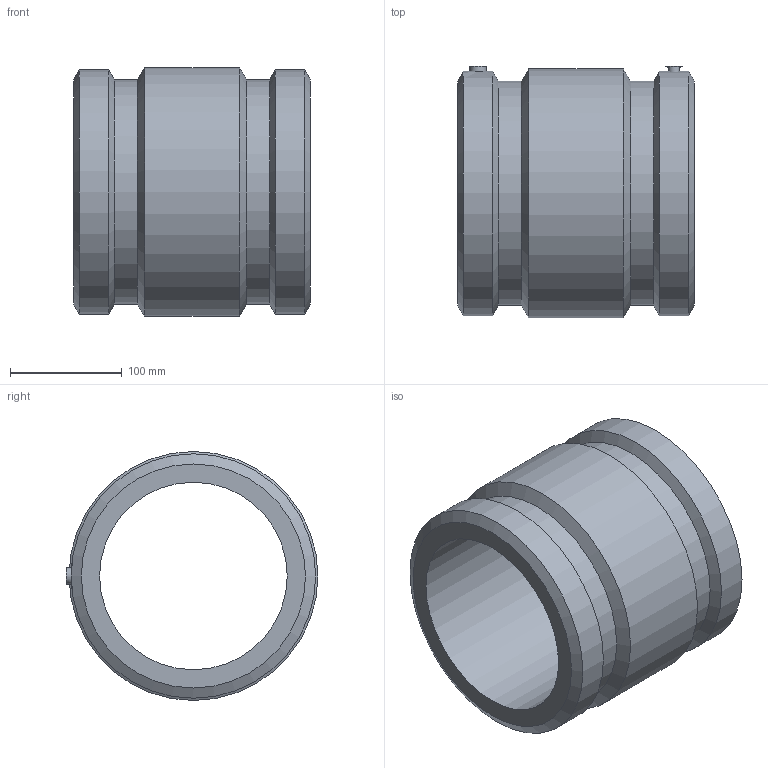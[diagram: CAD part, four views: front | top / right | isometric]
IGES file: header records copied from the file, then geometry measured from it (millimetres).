
Global section: file name: 5901D004060.ipt; native system: Autodesk Inventor 2019; preprocessor: unknown; author: KIM; date: 20210830.100924; units: inch
Bounding box: 212.09 x 225.55 x 223.01 mm (x, y, z)
Volume: 3060405.9 mm3; surface area: 298920.1 mm2
Topology: 1 solids, 2 shells, 28 faces, 56 edges, 36 vertices
Faces by surface type: cylinder 9, plane 8, cone 6, revolution 3, bspline 2
Full cylindrical faces by diameter (mm): 4 x2, 15 x2, 200.721 x2, 218.968 x2, 223.012 x1
